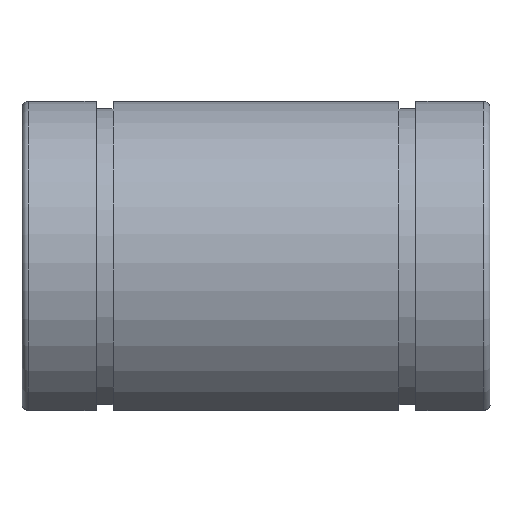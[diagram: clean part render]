
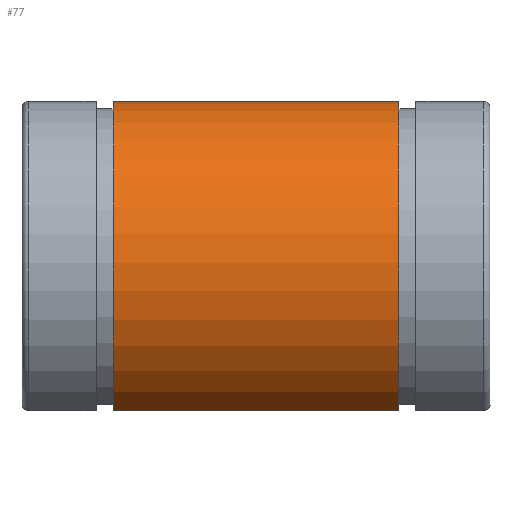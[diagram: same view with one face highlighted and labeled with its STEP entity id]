
A CAD part, top view. The second image highlights one B-rep face of the part: STEP entity #77.
In plain terms, the highlighted cylindrical face has radius 13 mm (diameter 26 mm), a partial arc.
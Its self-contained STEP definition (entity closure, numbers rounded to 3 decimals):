
#77=ADVANCED_FACE('',(#98,#99),#100,.T.);
#98=FACE_BOUND('',#136,.T.);
#99=FACE_OUTER_BOUND('',#137,.T.);
#100=CYLINDRICAL_SURFACE('',#138,13.0);
#136=EDGE_LOOP('',(#194));
#137=EDGE_LOOP('',(#195,#196,#197,#198));
#138=AXIS2_PLACEMENT_3D('',#199,#200,#201);
#194=ORIENTED_EDGE('',*,*,#329,.F.);
#195=ORIENTED_EDGE('',*,*,#330,.T.);
#196=ORIENTED_EDGE('',*,*,#331,.T.);
#197=ORIENTED_EDGE('',*,*,#332,.F.);
#198=ORIENTED_EDGE('',*,*,#319,.T.);
#199=CARTESIAN_POINT('',(-150.0,0.0,0.0));
#200=DIRECTION('',(1.0,-0.0,-0.0));
#201=DIRECTION('',(0.0,0.0,1.0));
#319=EDGE_CURVE('',#371,#369,#372,.F.);
#329=EDGE_CURVE('',#389,#389,#390,.T.);
#330=EDGE_CURVE('',#369,#391,#392,.T.);
#331=EDGE_CURVE('',#391,#393,#394,.T.);
#332=EDGE_CURVE('',#371,#393,#395,.T.);
#369=VERTEX_POINT('',#453);
#371=VERTEX_POINT('',#456);
#372=LINE('',#457,#458);
#389=VERTEX_POINT('',#490);
#390=B_SPLINE_CURVE_WITH_KNOTS('',3,(#491,#492,#493,#494,#495,#496,#497,#498,#499,#500,#501,#502,#503,#504,#505,#506,#507,#508,#509,#510,#511,#512,#513,#514,#515,#516,#517,#518,#519,#520,#521,#522,#523,#524,#525,#526,#527,#528,#529,#530,#531,#532,#533,#534,#535,#536,#537,#538,#539,#540,#541,#542,#543,#544),.UNSPECIFIED.,.T.,.F.,(2,2,2,2,2,2,2,2,2,2,2,2,2,2,2,2,2,2,2,2,2,2,2,2,2,2,2,2,2),(-0.001,0.0,0.,0.001,0.001,0.001,0.002,0.002,0.003,0.003,0.003,0.004,0.004,0.004,0.004,0.005,0.005,0.006,0.006,0.006,0.007,0.007,0.007,0.008,0.008,0.008,0.009,0.009,0.01),.UNSPECIFIED.);
#391=VERTEX_POINT('',#545);
#392=CIRCLE('',#546,13.0);
#393=VERTEX_POINT('',#547);
#394=LINE('',#548,#549);
#395=CIRCLE('',#550,13.0);
#453=CARTESIAN_POINT('',(11.0,-10.76,7.296));
#456=CARTESIAN_POINT('',(-11.0,-10.76,7.296));
#457=CARTESIAN_POINT('',(-150.0,-10.76,7.296));
#458=VECTOR('',#607,1.0);
#490=CARTESIAN_POINT('',(1.5,0.,-13.0));
#491=CARTESIAN_POINT('',(1.5,0.198,-13.0));
#492=CARTESIAN_POINT('',(1.5,-0.099,-13.0));
#493=CARTESIAN_POINT('',(1.49,-0.197,-12.999));
#494=CARTESIAN_POINT('',(1.452,-0.389,-12.995));
#495=CARTESIAN_POINT('',(1.423,-0.484,-12.991));
#496=CARTESIAN_POINT('',(1.348,-0.665,-12.983));
#497=CARTESIAN_POINT('',(1.302,-0.752,-12.979));
#498=CARTESIAN_POINT('',(1.193,-0.915,-12.968));
#499=CARTESIAN_POINT('',(1.13,-0.992,-12.962));
#500=CARTESIAN_POINT('',(0.922,-1.199,-12.945));
#501=CARTESIAN_POINT('',(0.755,-1.311,-12.934));
#502=CARTESIAN_POINT('',(0.394,-1.46,-12.918));
#503=CARTESIAN_POINT('',(0.197,-1.5,-12.913));
#504=CARTESIAN_POINT('',(-0.097,-1.5,-12.913));
#505=CARTESIAN_POINT('',(-0.197,-1.49,-12.914));
#506=CARTESIAN_POINT('',(-0.389,-1.452,-12.919));
#507=CARTESIAN_POINT('',(-0.483,-1.424,-12.922));
#508=CARTESIAN_POINT('',(-0.664,-1.349,-12.93));
#509=CARTESIAN_POINT('',(-0.752,-1.302,-12.935));
#510=CARTESIAN_POINT('',(-0.914,-1.193,-12.945));
#511=CARTESIAN_POINT('',(-0.99,-1.131,-12.951));
#512=CARTESIAN_POINT('',(-1.13,-0.991,-12.962));
#513=CARTESIAN_POINT('',(-1.192,-0.915,-12.968));
#514=CARTESIAN_POINT('',(-1.301,-0.753,-12.978));
#515=CARTESIAN_POINT('',(-1.348,-0.665,-12.983));
#516=CARTESIAN_POINT('',(-1.423,-0.484,-12.991));
#517=CARTESIAN_POINT('',(-1.452,-0.39,-12.994));
#518=CARTESIAN_POINT('',(-1.49,-0.198,-12.999));
#519=CARTESIAN_POINT('',(-1.5,-0.098,-13.));
#520=CARTESIAN_POINT('',(-1.5,0.195,-13.));
#521=CARTESIAN_POINT('',(-1.461,0.393,-12.995));
#522=CARTESIAN_POINT('',(-1.311,0.754,-12.979));
#523=CARTESIAN_POINT('',(-1.2,0.921,-12.968));
#524=CARTESIAN_POINT('',(-0.993,1.129,-12.951));
#525=CARTESIAN_POINT('',(-0.916,1.192,-12.945));
#526=CARTESIAN_POINT('',(-0.753,1.301,-12.935));
#527=CARTESIAN_POINT('',(-0.667,1.347,-12.93));
#528=CARTESIAN_POINT('',(-0.485,1.423,-12.922));
#529=CARTESIAN_POINT('',(-0.39,1.452,-12.919));
#530=CARTESIAN_POINT('',(-0.198,1.49,-12.914));
#531=CARTESIAN_POINT('',(-0.101,1.5,-12.913));
#532=CARTESIAN_POINT('',(0.098,1.5,-12.913));
#533=CARTESIAN_POINT('',(0.195,1.49,-12.914));
#534=CARTESIAN_POINT('',(0.387,1.452,-12.919));
#535=CARTESIAN_POINT('',(0.483,1.424,-12.922));
#536=CARTESIAN_POINT('',(0.664,1.349,-12.93));
#537=CARTESIAN_POINT('',(0.75,1.303,-12.935));
#538=CARTESIAN_POINT('',(0.913,1.194,-12.945));
#539=CARTESIAN_POINT('',(0.991,1.131,-12.951));
#540=CARTESIAN_POINT('',(1.198,0.923,-12.968));
#541=CARTESIAN_POINT('',(1.31,0.756,-12.979));
#542=CARTESIAN_POINT('',(1.46,0.395,-12.995));
#543=CARTESIAN_POINT('',(1.5,0.198,-13.0));
#544=CARTESIAN_POINT('',(1.5,-0.099,-13.0));
#545=CARTESIAN_POINT('',(11.0,-10.76,-7.296));
#546=AXIS2_PLACEMENT_3D('',#619,#620,#621);
#547=CARTESIAN_POINT('',(-11.0,-10.76,-7.296));
#548=CARTESIAN_POINT('',(-150.0,-10.76,-7.296));
#549=VECTOR('',#622,1.0);
#550=AXIS2_PLACEMENT_3D('',#623,#624,#625);
#607=DIRECTION('',(-1.0,0.0,0.0));
#619=CARTESIAN_POINT('',(11.0,0.0,0.0));
#620=DIRECTION('',(-1.0,0.0,0.0));
#621=DIRECTION('',(0.0,0.0,1.0));
#622=DIRECTION('',(-1.0,0.0,0.0));
#623=CARTESIAN_POINT('',(-11.0,0.0,0.0));
#624=DIRECTION('',(-1.0,0.0,0.0));
#625=DIRECTION('',(0.0,0.0,1.0));
